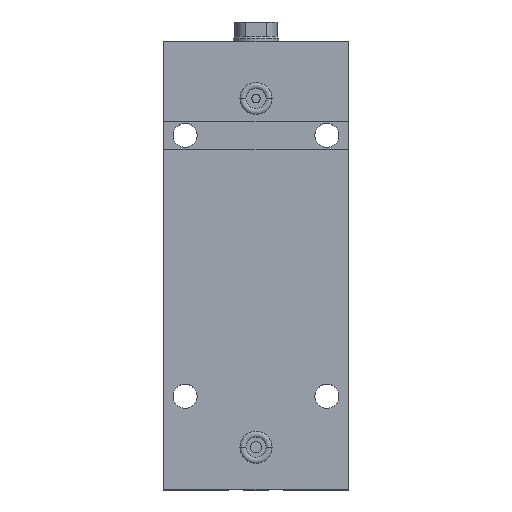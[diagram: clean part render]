
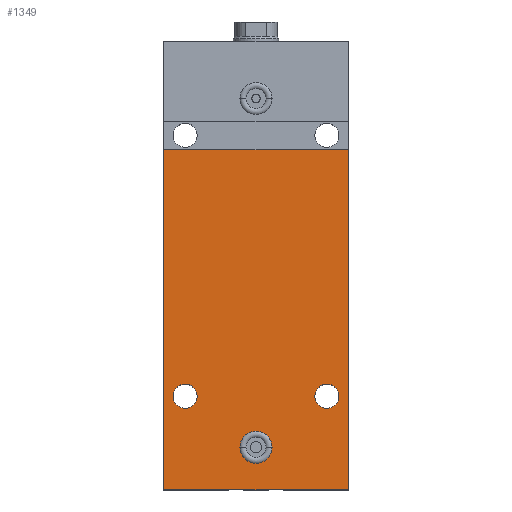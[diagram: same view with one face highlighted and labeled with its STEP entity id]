
A CAD part, top view. The second image highlights one B-rep face of the part: STEP entity #1349.
In plain terms, the highlighted planar face has unit normal (0, 0, 1).
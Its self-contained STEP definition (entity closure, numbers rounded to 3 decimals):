
#17 = EDGE_LOOP ( 'NONE', ( #2452, #2222 ) ) ;
#39 = VECTOR ( 'NONE', #2409, 1000. ) ;
#43 = DIRECTION ( 'NONE',  ( -1., 0., 0. ) ) ;
#95 = VERTEX_POINT ( 'NONE', #1968 ) ;
#176 = FACE_BOUND ( 'NONE', #3062, .T. ) ;
#182 = CARTESIAN_POINT ( 'NONE',  ( -32.5, 120., 22.5 ) ) ;
#189 = CIRCLE ( 'NONE', #2613, 4.25 ) ;
#205 = ORIENTED_EDGE ( 'NONE', *, *, #2366, .F. ) ;
#229 = DIRECTION ( 'NONE',  ( 1., 0., 0. ) ) ;
#272 = DIRECTION ( 'NONE',  ( 1., 0., 0. ) ) ;
#312 = CARTESIAN_POINT ( 'NONE',  ( -25., 33., 22.5 ) ) ;
#354 = ORIENTED_EDGE ( 'NONE', *, *, #489, .T. ) ;
#394 = EDGE_CURVE ( 'NONE', #1322, #1337, #1299, .T. ) ;
#457 = CARTESIAN_POINT ( 'NONE',  ( 5.65, 15., 22.5 ) ) ;
#469 = CARTESIAN_POINT ( 'NONE',  ( -29.25, 33., 22.5 ) ) ;
#489 = EDGE_CURVE ( 'NONE', #1934, #95, #2043, .T. ) ;
#580 = EDGE_CURVE ( 'NONE', #1239, #749, #2867, .T. ) ;
#603 = LINE ( 'NONE', #2784, #3174 ) ;
#668 = DIRECTION ( 'NONE',  ( 1., 0., 0. ) ) ;
#722 = EDGE_CURVE ( 'NONE', #749, #1239, #189, .T. ) ;
#749 = VERTEX_POINT ( 'NONE', #3148 ) ;
#766 = ORIENTED_EDGE ( 'NONE', *, *, #394, .F. ) ;
#791 = DIRECTION ( 'NONE',  ( -1., 0., 0. ) ) ;
#938 = EDGE_CURVE ( 'NONE', #2196, #2880, #603, .T. ) ;
#965 = CARTESIAN_POINT ( 'NONE',  ( 25., 33., 22.5 ) ) ;
#1027 = CARTESIAN_POINT ( 'NONE',  ( 25., 33., 22.5 ) ) ;
#1054 = VERTEX_POINT ( 'NONE', #1449 ) ;
#1055 = PLANE ( 'NONE',  #2768 ) ;
#1206 = EDGE_CURVE ( 'NONE', #1337, #1322, #1243, .T. ) ;
#1215 = EDGE_CURVE ( 'NONE', #2196, #1934, #3164, .T. ) ;
#1239 = VERTEX_POINT ( 'NONE', #469 ) ;
#1243 = CIRCLE ( 'NONE', #1317, 4.25 ) ;
#1287 = DIRECTION ( 'NONE',  ( 0., 0., 1. ) ) ;
#1296 = VECTOR ( 'NONE', #1478, 1000. ) ;
#1299 = CIRCLE ( 'NONE', #2162, 4.25 ) ;
#1317 = AXIS2_PLACEMENT_3D ( 'NONE', #965, #2267, #229 ) ;
#1322 = VERTEX_POINT ( 'NONE', #2311 ) ;
#1337 = VERTEX_POINT ( 'NONE', #1790 ) ;
#1349 = ADVANCED_FACE ( 'NONE', ( #1586, #3095, #176, #2269 ), #1055, .F. ) ;
#1409 = DIRECTION ( 'NONE',  ( -1., 0., 0. ) ) ;
#1449 = CARTESIAN_POINT ( 'NONE',  ( -5.65, 15., 22.5 ) ) ;
#1478 = DIRECTION ( 'NONE',  ( 1., 0., 0. ) ) ;
#1546 = DIRECTION ( 'NONE',  ( 1., 0., 0. ) ) ;
#1571 = CIRCLE ( 'NONE', #2777, 5.65 ) ;
#1586 = FACE_BOUND ( 'NONE', #1963, .T. ) ;
#1753 = CARTESIAN_POINT ( 'NONE',  ( 0., 15., 22.5 ) ) ;
#1756 = DIRECTION ( 'NONE',  ( 0., 0., -1. ) ) ;
#1777 = AXIS2_PLACEMENT_3D ( 'NONE', #2667, #2928, #1409 ) ;
#1790 = CARTESIAN_POINT ( 'NONE',  ( 29.25, 33., 22.5 ) ) ;
#1934 = VERTEX_POINT ( 'NONE', #2263 ) ;
#1963 = EDGE_LOOP ( 'NONE', ( #205, #2392 ) ) ;
#1968 = CARTESIAN_POINT ( 'NONE',  ( 32.5, 0., 22.5 ) ) ;
#2012 = CARTESIAN_POINT ( 'NONE',  ( -32.5, 0., 22.5 ) ) ;
#2043 = LINE ( 'NONE', #2012, #1296 ) ;
#2093 = ORIENTED_EDGE ( 'NONE', *, *, #2293, .F. ) ;
#2125 = EDGE_CURVE ( 'NONE', #1054, #3238, #2170, .T. ) ;
#2162 = AXIS2_PLACEMENT_3D ( 'NONE', #1027, #2748, #2761 ) ;
#2170 = CIRCLE ( 'NONE', #1777, 5.65 ) ;
#2196 = VERTEX_POINT ( 'NONE', #182 ) ;
#2222 = ORIENTED_EDGE ( 'NONE', *, *, #580, .F. ) ;
#2230 = AXIS2_PLACEMENT_3D ( 'NONE', #312, #1287, #1546 ) ;
#2251 = ORIENTED_EDGE ( 'NONE', *, *, #1215, .T. ) ;
#2263 = CARTESIAN_POINT ( 'NONE',  ( -32.5, 0., 22.5 ) ) ;
#2267 = DIRECTION ( 'NONE',  ( 0., 0., 1. ) ) ;
#2269 = FACE_OUTER_BOUND ( 'NONE', #3070, .T. ) ;
#2293 = EDGE_CURVE ( 'NONE', #2880, #95, #2568, .T. ) ;
#2311 = CARTESIAN_POINT ( 'NONE',  ( 20.75, 33., 22.5 ) ) ;
#2366 = EDGE_CURVE ( 'NONE', #3238, #1054, #1571, .T. ) ;
#2392 = ORIENTED_EDGE ( 'NONE', *, *, #2125, .F. ) ;
#2409 = DIRECTION ( 'NONE',  ( 0., -1., 0. ) ) ;
#2416 = ORIENTED_EDGE ( 'NONE', *, *, #938, .F. ) ;
#2452 = ORIENTED_EDGE ( 'NONE', *, *, #722, .F. ) ;
#2507 = VECTOR ( 'NONE', #2518, 1000. ) ;
#2518 = DIRECTION ( 'NONE',  ( 0., -1., 0. ) ) ;
#2568 = LINE ( 'NONE', #2874, #39 ) ;
#2613 = AXIS2_PLACEMENT_3D ( 'NONE', #3113, #2623, #668 ) ;
#2623 = DIRECTION ( 'NONE',  ( 0., 0., 1. ) ) ;
#2667 = CARTESIAN_POINT ( 'NONE',  ( 0., 15., 22.5 ) ) ;
#2748 = DIRECTION ( 'NONE',  ( 0., 0., 1. ) ) ;
#2752 = CARTESIAN_POINT ( 'NONE',  ( -32.5, 58., 22.5 ) ) ;
#2761 = DIRECTION ( 'NONE',  ( 1., 0., 0. ) ) ;
#2768 = AXIS2_PLACEMENT_3D ( 'NONE', #2804, #1756, #43 ) ;
#2777 = AXIS2_PLACEMENT_3D ( 'NONE', #1753, #2801, #791 ) ;
#2783 = CARTESIAN_POINT ( 'NONE',  ( 32.5, 120., 22.5 ) ) ;
#2784 = CARTESIAN_POINT ( 'NONE',  ( -32.5, 120., 22.5 ) ) ;
#2801 = DIRECTION ( 'NONE',  ( 0., 0., 1. ) ) ;
#2804 = CARTESIAN_POINT ( 'NONE',  ( -32.5, 58., 22.5 ) ) ;
#2854 = ORIENTED_EDGE ( 'NONE', *, *, #1206, .F. ) ;
#2867 = CIRCLE ( 'NONE', #2230, 4.25 ) ;
#2874 = CARTESIAN_POINT ( 'NONE',  ( 32.5, 58., 22.5 ) ) ;
#2880 = VERTEX_POINT ( 'NONE', #2783 ) ;
#2928 = DIRECTION ( 'NONE',  ( 0., 0., 1. ) ) ;
#3062 = EDGE_LOOP ( 'NONE', ( #2854, #766 ) ) ;
#3070 = EDGE_LOOP ( 'NONE', ( #2093, #2416, #2251, #354 ) ) ;
#3095 = FACE_BOUND ( 'NONE', #17, .T. ) ;
#3113 = CARTESIAN_POINT ( 'NONE',  ( -25., 33., 22.5 ) ) ;
#3148 = CARTESIAN_POINT ( 'NONE',  ( -20.75, 33., 22.5 ) ) ;
#3164 = LINE ( 'NONE', #2752, #2507 ) ;
#3174 = VECTOR ( 'NONE', #272, 1000. ) ;
#3238 = VERTEX_POINT ( 'NONE', #457 ) ;
